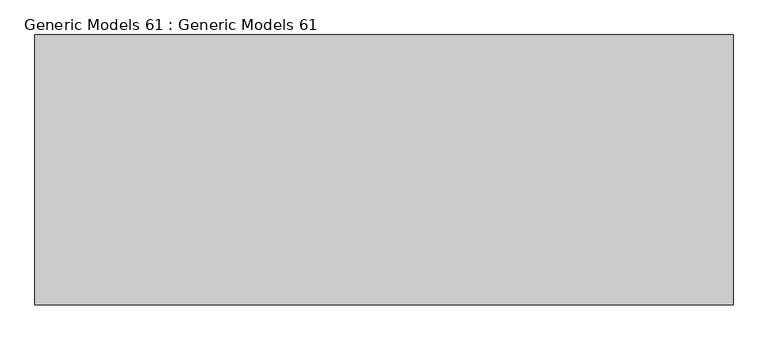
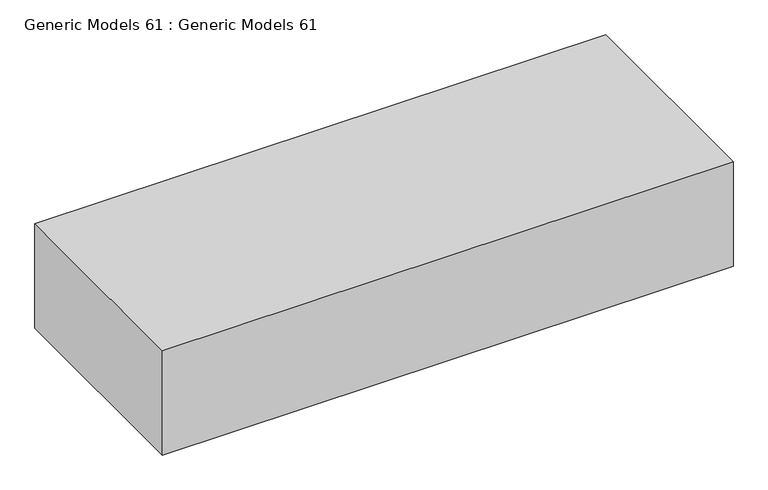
"""IFC4 building model written with IfcOpenShell, lengths in millimetres: proxy geometry, Generic Models 61 : Generic Models 61."""

from ifc_helpers import new_model, si_unit, origin, place, context, project, spatial, faceted_brep, source, transform, mapped, element, save


def generic_models_61_generic_models_61_dfe6170b(model_context):
    return source(origin(), model_context, "Body", "Brep", [
        faceted_brep([(-88.9, 2806.7, 6261.1), (-88.9, 2806.7, 5956.3), (-88.9, 3416.3, 5956.3), (-88.9, 3416.3, 6261.1), (-1663.7, 2806.7, 6261.1), (-1663.7, 3302.0, 6261.1), (-1663.7, 3416.3, 6261.1), (-1663.7, 3416.3, 5956.3), (-1663.7, 2806.7, 5956.3)], [[[0, 1, 2, 3]], [[4, 5, 6, 7, 8]], [[1, 0, 4, 8]], [[2, 1, 8, 7]], [[3, 2, 7, 6]], [[0, 3, 6, 5, 4]]]),
    ])


if __name__ == "__main__":
    model = new_model("IFC4")
    model_context = context("Model", 3, world=origin())
    ifc_project = project(units=[si_unit("LENGTHUNIT", "METRE", prefix="MILLI")], contexts=[model_context])
    site = spatial("IfcSite", under=ifc_project)
    building = spatial("IfcBuilding", under=site)
    placement = place(None, origin())
    generic_models_61_generic_models_61_shape = generic_models_61_generic_models_61_dfe6170b(model_context)
    element("IfcBuildingElementProxy", 1, Name="Generic Models 61 : Generic Models 61", ObjectType="Generic Models 61 : Generic Models 61", at=placement, inside=building, context=model_context, shape_type="MappedRepresentation", body=[
        mapped(generic_models_61_generic_models_61_shape, transform((0.0, 0.0, 0.0), x_axis=(1.0, 0.0, 0.0), y_axis=(0.0, 1.0, 0.0), z_axis=(0.0, 0.0, 1.0))),
    ])
    save(model, "model.ifc")
